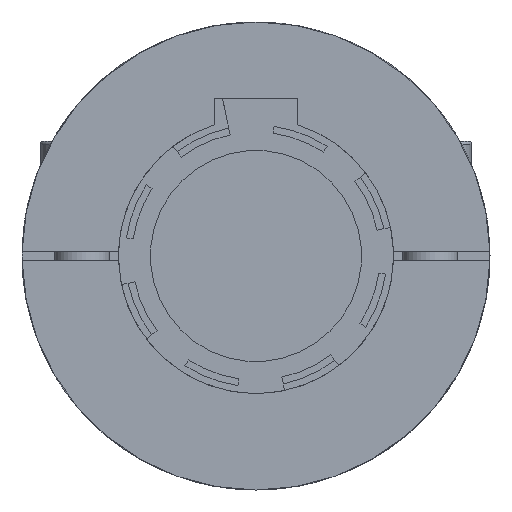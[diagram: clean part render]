
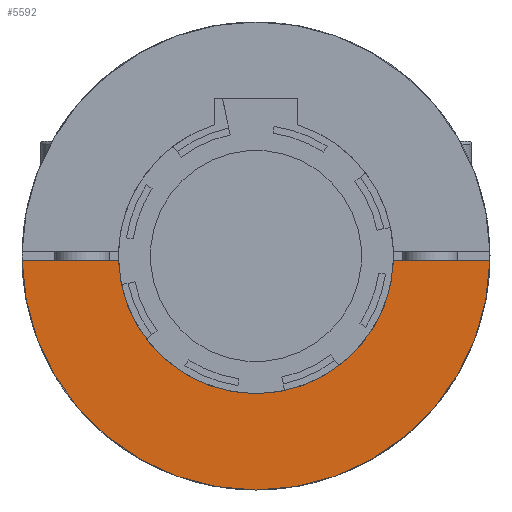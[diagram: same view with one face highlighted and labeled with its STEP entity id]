
A CAD part, left-side view. The second image highlights one B-rep face of the part: STEP entity #5592.
In plain terms, the highlighted planar face has unit normal (-1, 0, 0).
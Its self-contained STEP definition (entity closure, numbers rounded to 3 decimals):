
#258=PLANE('',#6146);
#534=FACE_OUTER_BOUND('',#859,.T.);
#859=EDGE_LOOP('',(#5188,#5189,#5190,#5191));
#1220=LINE('',#12052,#1776);
#1422=LINE('',#12591,#1978);
#1776=VECTOR('',#7220,39.032);
#1978=VECTOR('',#7750,39.032);
#1998=CIRCLE('',#5645,30.);
#2156=CIRCLE('',#5979,51.);
#2258=VERTEX_POINT('',#7822);
#2259=VERTEX_POINT('',#7823);
#2597=VERTEX_POINT('',#12041);
#2598=VERTEX_POINT('',#12043);
#2793=EDGE_CURVE('',#2258,#2259,#1998,.T.);
#3302=EDGE_CURVE('',#2598,#2597,#2156,.T.);
#3307=EDGE_CURVE('',#2598,#2259,#1220,.T.);
#3592=EDGE_CURVE('',#2258,#2597,#1422,.T.);
#5188=ORIENTED_EDGE('',*,*,#2793,.T.);
#5189=ORIENTED_EDGE('',*,*,#3307,.F.);
#5190=ORIENTED_EDGE('',*,*,#3302,.T.);
#5191=ORIENTED_EDGE('',*,*,#3592,.F.);
#5592=ADVANCED_FACE('',(#534),#258,.F.);
#5645=AXIS2_PLACEMENT_3D('',#7824,#6202,#6203);
#5979=AXIS2_PLACEMENT_3D('',#12044,#7209,#7210);
#6146=AXIS2_PLACEMENT_3D('',#12590,#7748,#7749);
#6202=DIRECTION('center_axis',(1.,0.,0.));
#6203=DIRECTION('ref_axis',(0.,0.,1.));
#7209=DIRECTION('center_axis',(-1.,0.,0.));
#7210=DIRECTION('ref_axis',(0.,1.,-0.02));
#7220=DIRECTION('',(0.,-1.,0.));
#7748=DIRECTION('center_axis',(1.,0.,0.));
#7749=DIRECTION('ref_axis',(0.,0.,-1.));
#7750=DIRECTION('',(0.,-1.,0.));
#7822=CARTESIAN_POINT('',(0.,-29.983,-1.));
#7823=CARTESIAN_POINT('',(0.,29.983,-1.));
#7824=CARTESIAN_POINT('Origin',(0.,0.,0.));
#12041=CARTESIAN_POINT('',(0.,-50.99,-1.));
#12043=CARTESIAN_POINT('',(0.,50.99,-1.));
#12044=CARTESIAN_POINT('Origin',(0.,0.,0.));
#12052=CARTESIAN_POINT('',(0.,50.99,-1.));
#12590=CARTESIAN_POINT('Origin',(0.,0.,51.));
#12591=CARTESIAN_POINT('',(0.,-11.958,-1.));
